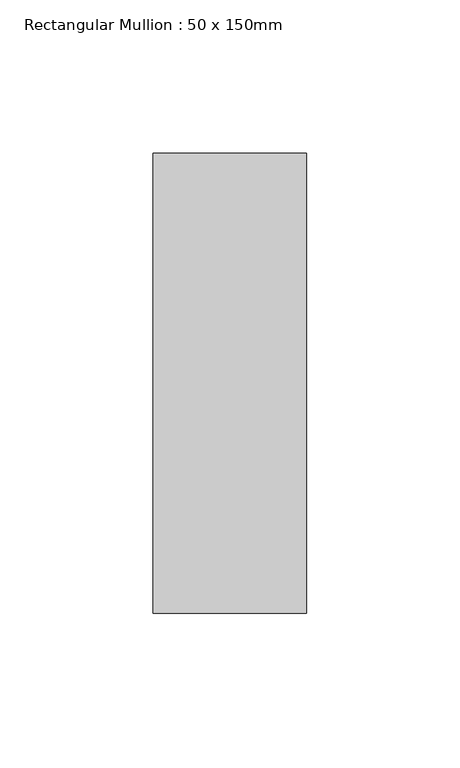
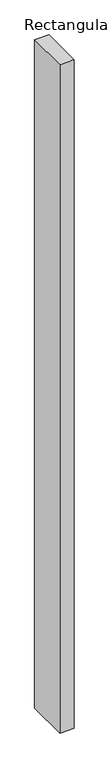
"""IFC4 building model written with IfcOpenShell, lengths in millimetres: member geometry, Rectangular Mullion : 50 x 150mm."""

from ifc_helpers import new_model, si_unit, frame, origin, place, context, project, spatial, polyline, outline, extrude, source, transform, mapped, element, save


def rectangular_mullion_50_x_150mm_a98d9a75(model_context):
    return source(origin(), model_context, "Body", "SweptSolid", [
        extrude(outline(polyline([(25.0, 75.0), (25.0, -75.0), (-25.0, -75.0), (-25.0, 75.0), (25.0, 75.0)])), frame((0.0, 0.0, -2438.4), z_axis=(0.0, 0.0, 1.0), x_axis=(1.0, 0.0, 0.0)), (0.0, 0.0, 1.0), 2438.4),
    ])


if __name__ == "__main__":
    model = new_model("IFC4")
    model_context = context("Model", 3, world=origin())
    ifc_project = project(units=[si_unit("LENGTHUNIT", "METRE", prefix="MILLI")], contexts=[model_context])
    site = spatial("IfcSite", under=ifc_project)
    building = spatial("IfcBuilding", under=site)
    placement = place(None, origin())
    rectangular_mullion_50_x_150mm_shape = rectangular_mullion_50_x_150mm_a98d9a75(model_context)
    element("IfcMember", 1, ObjectType="Rectangular Mullion : 50 x 150mm", at=placement, inside=building, context=model_context, shape_type="MappedRepresentation", body=[
        mapped(rectangular_mullion_50_x_150mm_shape, transform((0.0, 0.0, 0.0), x_axis=(1.0, 0.0, 0.0), y_axis=(0.0, 1.0, 0.0), z_axis=(0.0, 0.0, 1.0))),
    ])
    save(model, "model.ifc")
